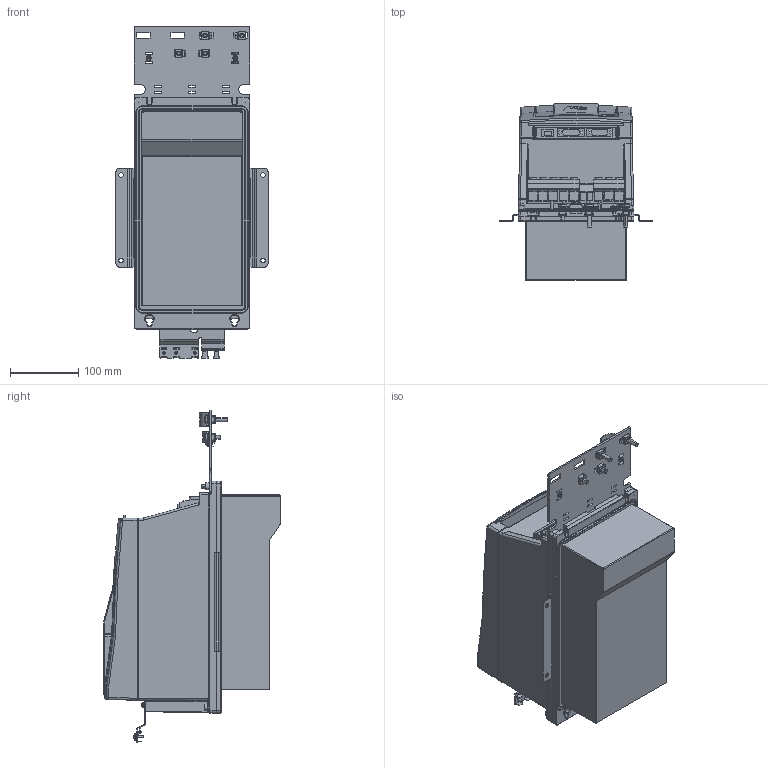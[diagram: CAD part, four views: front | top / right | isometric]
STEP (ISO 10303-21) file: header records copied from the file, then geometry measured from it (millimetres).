
FILE_DESCRIPTION (( 'STEP AP214' ), '1' );
FILE_NAME ('10051471_000.STEP', '2021-01-18T09:27:42', ( '' ), ( '' ), 'SwSTEP 2.0', 'SolidWorks 2019', '' );
FILE_SCHEMA (( 'AUTOMOTIVE_DESIGN' ));
Length unit declared in the file: millimetre
Products named in the file (15): 10063222_000; 10001531_000; 10059765_000; 10059763_000; 10060358_000; 10051470_000_Leistungsteil TR5 (Kundenmodell); 10063309_000; 10035736_000_Kundenmodell; 10047094_000_Mit K„figmutterSM-FLAT-PATTERN; 10060393_000; 10047114_000_Kundenmodell; 10051471_000; 10040482_000_Kundenmodell; 10061030_000_Kundenmodell; 10059764_000_Blindabdeckung (Kundenmodell)
Assembly tree (15 placements, depth 4):
  10051471_000
    10051470_000_Leistungsteil TR5 (Kundenmodell)
      10060358_000
    10040482_000_Kundenmodell
      10060393_000
    10035736_000_Kundenmodell
      10059764_000_Blindabdeckung (Kundenmodell)
        10059765_000
      10059763_000
    10047114_000_Kundenmodell
      10047094_000_Mit K„figmutterSM-FLAT-PATTERN
      10063222_000
    10061030_000_Kundenmodell
      10063309_000
    10001531_000  x2
Bounding box: 223 x 258.4 x 486.8 mm (x, y, z)
Volume: 10656456.7 mm3; surface area: 740341.8 mm2
Topology: 21 solids, 28 shells, 3718 faces, 9759 edges, 6176 vertices
Faces by surface type: plane 1780, cylinder 1224, bspline 359, torus 154, cone 135, sphere 66
Entity records: 127579 total; most frequent: CARTESIAN_POINT 33886, ORIENTED_EDGE 19210, DIRECTION 17806, EDGE_CURVE 9605, AXIS2_PLACEMENT_3D 6136, VERTEX_POINT 6118, VECTOR 5534, LINE 5534
